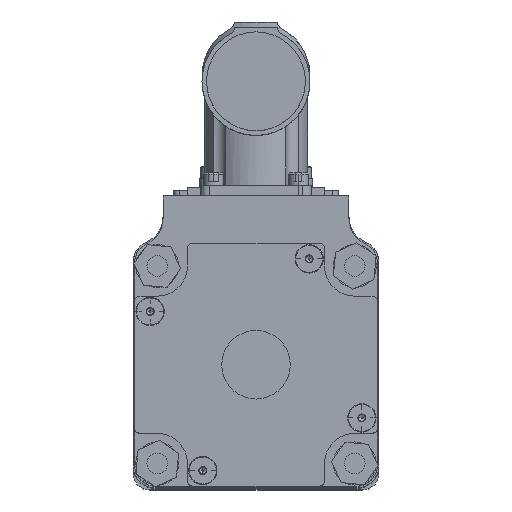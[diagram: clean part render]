
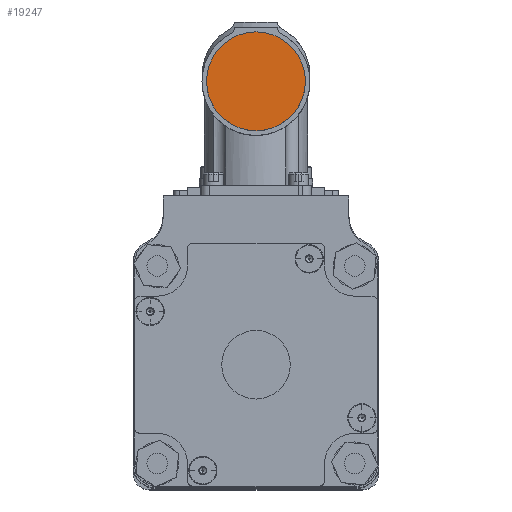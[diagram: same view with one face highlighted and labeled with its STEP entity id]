
A CAD part, top view. The second image highlights one B-rep face of the part: STEP entity #19247.
In plain terms, the highlighted planar face has unit normal (0, 0, 1) as drawn and (0, 1, 0) by its records, which use the part's own axes.
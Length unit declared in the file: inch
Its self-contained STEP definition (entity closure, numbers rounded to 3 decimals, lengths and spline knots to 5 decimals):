
#4520 = CARTESIAN_POINT ( 'NONE',  ( -0.4505, 1.90134, 1.04331 ) ) ;
#4521 = DIRECTION ( 'NONE',  ( -1., 0., 0. ) ) ;
#4522 = DIRECTION ( 'NONE',  ( 0., 1., 0. ) ) ;
#4523 = CARTESIAN_POINT ( 'NONE',  ( 0., 1.90134, 1.04331 ) ) ;
#4524 = AXIS2_PLACEMENT_3D ( 'NONE', #4523, #4522, #4521 ) ;
#4525 = CIRCLE ( 'NONE', #4524, 0.4505 ) ;
#4547 = CARTESIAN_POINT ( 'NONE',  ( 0.4505, 1.90134, 1.04331 ) ) ;
#5716 = DIRECTION ( 'NONE',  ( 1., 0., 0. ) ) ;
#5717 = DIRECTION ( 'NONE',  ( 0., -1., 0. ) ) ;
#5718 = CARTESIAN_POINT ( 'NONE',  ( -0.26247, 1.90134, 1.53543 ) ) ;
#5779 = PLANE ( 'NONE',  #5780 ) ;
#5780 = AXIS2_PLACEMENT_3D ( 'NONE', #5718, #5717, #5716 ) ;
#5781 = FACE_OUTER_BOUND ( 'NONE', #19248, .T. ) ;
#5782 = DIRECTION ( 'NONE',  ( -1., 0., 0. ) ) ;
#5783 = DIRECTION ( 'NONE',  ( 0., 1., 0. ) ) ;
#5784 = CARTESIAN_POINT ( 'NONE',  ( 0., 1.90134, 1.04331 ) ) ;
#5785 = AXIS2_PLACEMENT_3D ( 'NONE', #5784, #5783, #5782 ) ;
#5786 = CIRCLE ( 'NONE', #5785, 0.4505 ) ;
#18126 = VERTEX_POINT ( 'NONE', #4547 ) ;
#18130 = EDGE_CURVE ( 'NONE', #18133, #18126, #4525, .T. ) ;
#18133 = VERTEX_POINT ( 'NONE', #4520 ) ;
#19246 = EDGE_CURVE ( 'NONE', #18126, #18133, #5786, .T. ) ;
#19247 = ADVANCED_FACE ( 'NONE', ( #5781 ), #5779, .F. ) ;
#19248 = EDGE_LOOP ( 'NONE', ( #19249, #19250 ) ) ;
#19249 = ORIENTED_EDGE ( 'NONE', *, *, #18130, .T. ) ;
#19250 = ORIENTED_EDGE ( 'NONE', *, *, #19246, .T. ) ;
